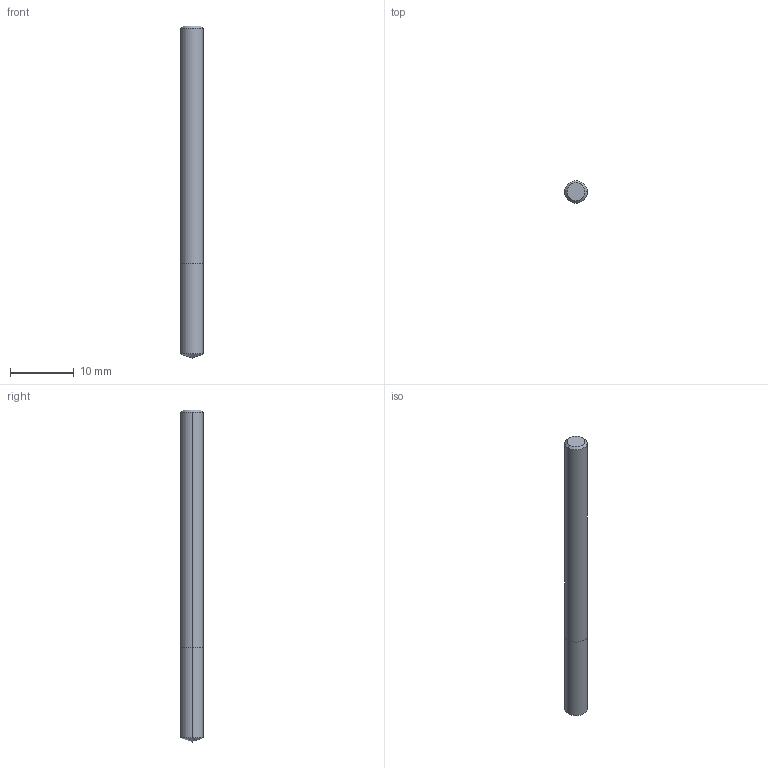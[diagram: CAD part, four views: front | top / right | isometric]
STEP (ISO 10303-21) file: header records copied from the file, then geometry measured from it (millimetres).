
FILE_DESCRIPTION (( 'STEP AP214' ), '1' );
FILE_NAME ('303.035.00_3D-model.step', '2022-02-19T15:46:02', ( '' ), ( '' ), 'SwSTEP 2.0', 'SolidWorks 2020', '' );
FILE_SCHEMA (( 'AUTOMOTIVE_DESIGN' ));
Length unit declared in the file: millimetre
Products named in the file (3): CUT-3D^Baugr6; NOCUT-3D^Baugr6; 303.035.00_3D-model
Assembly tree (2 placements, depth 2):
  303.035.00_3D-model
    CUT-3D^Baugr6
    NOCUT-3D^Baugr6
Bounding box: 3.5 x 3.5 x 52 mm (x, y, z)
Volume: 495.6 mm3; surface area: 601.5 mm2
Topology: 2 solids, 2 shells, 11 faces, 20 edges, 11 vertices
Faces by surface type: cone 4, cylinder 4, plane 3
Entity records: 380 total; most frequent: DIRECTION 66, CARTESIAN_POINT 48, ORIENTED_EDGE 36, AXIS2_PLACEMENT_3D 29, EDGE_CURVE 18, ADVANCED_FACE 11, EDGE_LOOP 11, VERTEX_POINT 11
